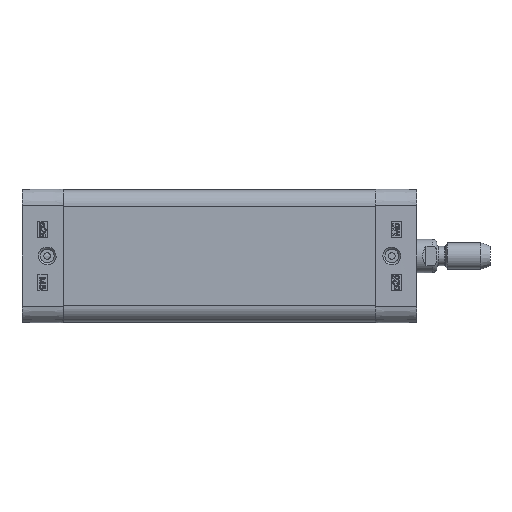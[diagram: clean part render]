
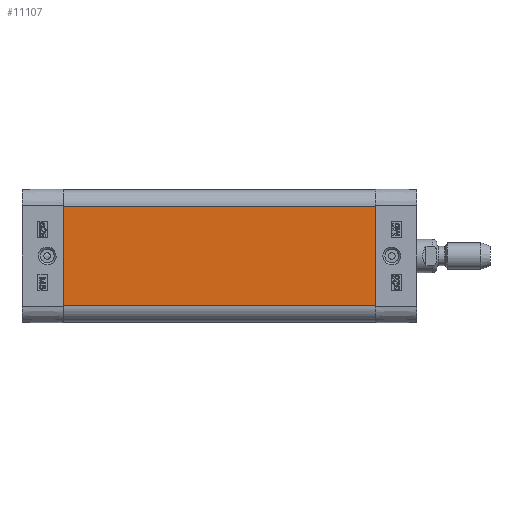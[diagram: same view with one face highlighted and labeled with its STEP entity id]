
A CAD part, left-side view. The second image highlights one B-rep face of the part: STEP entity #11107.
In plain terms, the highlighted planar face has unit normal (-1, 0, 0).
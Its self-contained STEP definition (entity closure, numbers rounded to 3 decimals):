
#8889=CARTESIAN_POINT('',(-20.,-94.0,15.0));
#8890=VERTEX_POINT('',#8889);
#8898=CARTESIAN_POINT('',(-20.,-94.0,-15.));
#8899=VERTEX_POINT('',#8898);
#8900=CARTESIAN_POINT('',(-20.,-94.0,-15.));
#8901=DIRECTION('',(0.0,0.0,1.0));
#8902=VECTOR('',#8901,30.);
#8903=LINE('',#8900,#8902);
#8904=EDGE_CURVE('',#8899,#8890,#8903,.T.);
#10035=CARTESIAN_POINT('',(-20.,0.0,15.0));
#10036=VERTEX_POINT('',#10035);
#10044=CARTESIAN_POINT('',(-20.,0.0,15.0));
#10045=DIRECTION('',(0.0,-1.0,0.0));
#10046=VECTOR('',#10045,94.0);
#10047=LINE('',#10044,#10046);
#10048=EDGE_CURVE('',#10036,#8890,#10047,.T.);
#11072=CARTESIAN_POINT('',(-20.,0.0,-15.));
#11073=VERTEX_POINT('',#11072);
#11074=CARTESIAN_POINT('',(-20.,0.0,-15.));
#11075=DIRECTION('',(0.0,-1.0,0.0));
#11076=VECTOR('',#11075,94.0);
#11077=LINE('',#11074,#11076);
#11078=EDGE_CURVE('',#11073,#8899,#11077,.T.);
#11091=CARTESIAN_POINT('',(-20.,0.0,-15.));
#11092=DIRECTION('',(-1.0,0.0,0.0));
#11093=DIRECTION('',(0.0,0.0,1.0));
#11094=AXIS2_PLACEMENT_3D('',#11091,#11092,#11093);
#11095=PLANE('',#11094);
#11096=ORIENTED_EDGE('',*,*,#8904,.T.);
#11097=ORIENTED_EDGE('',*,*,#10048,.F.);
#11098=CARTESIAN_POINT('',(-20.,0.0,-15.));
#11099=DIRECTION('',(0.0,0.0,1.0));
#11100=VECTOR('',#11099,30.);
#11101=LINE('',#11098,#11100);
#11102=EDGE_CURVE('',#11073,#10036,#11101,.T.);
#11103=ORIENTED_EDGE('',*,*,#11102,.F.);
#11104=ORIENTED_EDGE('',*,*,#11078,.T.);
#11105=EDGE_LOOP('',(#11096,#11097,#11103,#11104));
#11106=FACE_OUTER_BOUND('',#11105,.T.);
#11107=ADVANCED_FACE('',(#11106),#11095,.T.);
